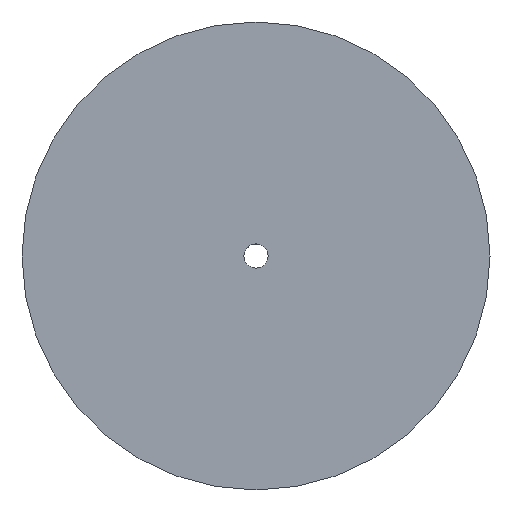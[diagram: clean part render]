
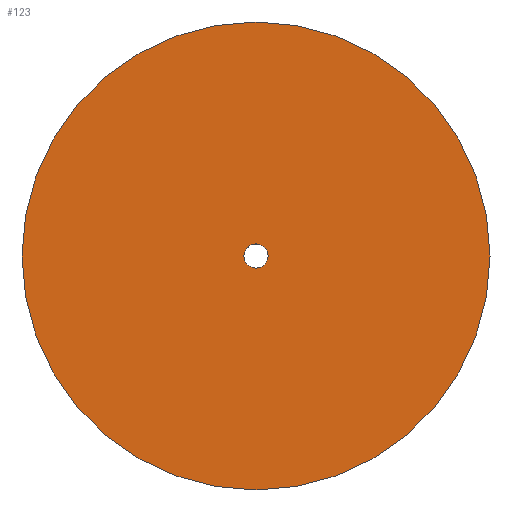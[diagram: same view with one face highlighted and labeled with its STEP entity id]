
A CAD part, top view. The second image highlights one B-rep face of the part: STEP entity #123.
In plain terms, the highlighted planar face has unit normal (0, 0, 1).
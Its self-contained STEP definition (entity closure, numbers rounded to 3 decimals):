
#62=CARTESIAN_POINT('Vertex',(-2.852,1.558,0.)) ;
#76=CARTESIAN_POINT('Vertex',(2.852,-1.558,0.)) ;
#79=CARTESIAN_POINT('Axis2P3D Location',(0.,0.,0.)) ;
#91=CARTESIAN_POINT('Axis2P3D Location',(0.,0.,0.)) ;
#96=CARTESIAN_POINT('Axis2P3D Location',(0.,0.,0.)) ;
#100=CARTESIAN_POINT('Vertex',(63.,0.,0.)) ;
#102=CARTESIAN_POINT('Vertex',(-63.,0.,0.)) ;
#105=CARTESIAN_POINT('Axis2P3D Location',(0.,0.,0.)) ;
#114=CARTESIAN_POINT('Axis2P3D Location',(0.,0.,0.)) ;
#80=DIRECTION('Axis2P3D Direction',(0.,-0.,-1.)) ;
#92=DIRECTION('Axis2P3D Direction',(0.,0.,1.)) ;
#93=DIRECTION('Axis2P3D XDirection',(1.,0.,0.)) ;
#97=DIRECTION('Axis2P3D Direction',(0.,0.,1.)) ;
#106=DIRECTION('Axis2P3D Direction',(0.,0.,1.)) ;
#115=DIRECTION('Axis2P3D Direction',(0.,0.,1.)) ;
#81=AXIS2_PLACEMENT_3D('Circle Axis2P3D',#79,#80,$) ;
#94=AXIS2_PLACEMENT_3D('Plane Axis2P3D',#91,#92,#93) ;
#98=AXIS2_PLACEMENT_3D('Circle Axis2P3D',#96,#97,$) ;
#107=AXIS2_PLACEMENT_3D('Circle Axis2P3D',#105,#106,$) ;
#116=AXIS2_PLACEMENT_3D('Circle Axis2P3D',#114,#115,$) ;
#111=ORIENTED_EDGE('',*,*,#104,.F.) ;
#112=ORIENTED_EDGE('',*,*,#109,.F.) ;
#120=ORIENTED_EDGE('',*,*,#118,.F.) ;
#121=ORIENTED_EDGE('',*,*,#83,.F.) ;
#122=FACE_BOUND('',#119,.T.) ;
#123=ADVANCED_FACE('PartBody',(#113,#122),#95,.T.) ;
#82=CIRCLE('generated circle',#81,3.25) ;
#99=CIRCLE('generated circle',#98,63.) ;
#108=CIRCLE('generated circle',#107,63.) ;
#117=CIRCLE('generated circle',#116,3.25) ;
#83=EDGE_CURVE('',#77,#63,#82,.F.) ;
#104=EDGE_CURVE('',#101,#103,#99,.F.) ;
#109=EDGE_CURVE('',#103,#101,#108,.F.) ;
#118=EDGE_CURVE('',#63,#77,#117,.T.) ;
#110=EDGE_LOOP('',(#111,#112)) ;
#119=EDGE_LOOP('',(#120,#121)) ;
#113=FACE_OUTER_BOUND('',#110,.T.) ;
#95=PLANE('',#94) ;
#63=VERTEX_POINT('',#62) ;
#77=VERTEX_POINT('',#76) ;
#101=VERTEX_POINT('',#100) ;
#103=VERTEX_POINT('',#102) ;
